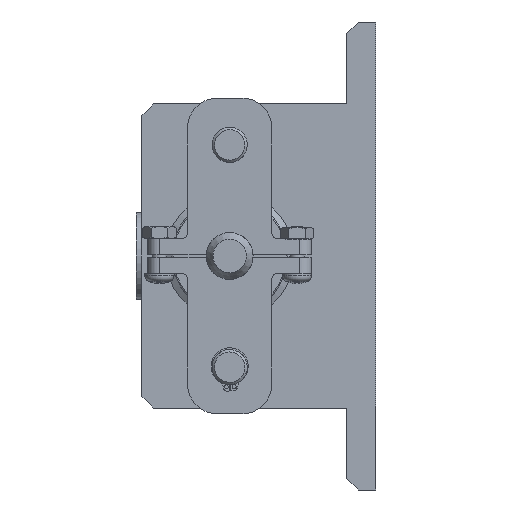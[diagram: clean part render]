
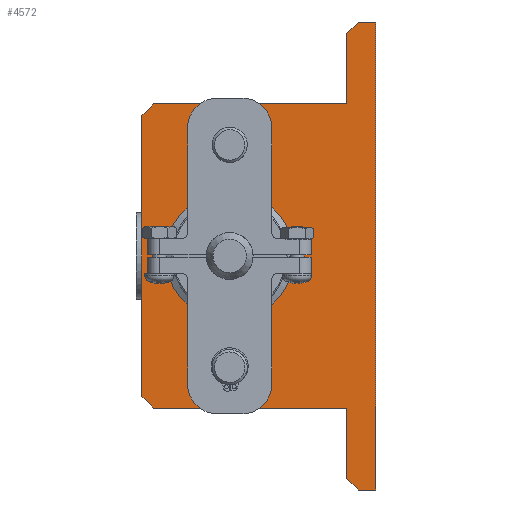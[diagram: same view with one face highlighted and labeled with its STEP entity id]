
A CAD part, left-side view. The second image highlights one B-rep face of the part: STEP entity #4572.
In plain terms, the highlighted planar face has unit normal (-1, 0, 0) as drawn and (0, -1, 0) by its records, which use the part's own axes.
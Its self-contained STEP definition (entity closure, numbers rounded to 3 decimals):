
#347=PLANE('',#5399);
#420=FACE_BOUND('',#987,.T.);
#421=FACE_BOUND('',#988,.T.);
#422=FACE_BOUND('',#989,.T.);
#681=FACE_OUTER_BOUND('',#986,.T.);
#986=EDGE_LOOP('',(#4025,#4026,#4027,#4028,#4029,#4030,#4031,#4032,#4033,
#4034,#4035,#4036));
#987=EDGE_LOOP('',(#4037));
#988=EDGE_LOOP('',(#4038));
#989=EDGE_LOOP('',(#4039));
#1279=LINE('',#8445,#1593);
#1281=LINE('',#8449,#1595);
#1284=LINE('',#8457,#1598);
#1285=LINE('',#8459,#1599);
#1286=LINE('',#8461,#1600);
#1287=LINE('',#8463,#1601);
#1288=LINE('',#8465,#1602);
#1289=LINE('',#8467,#1603);
#1290=LINE('',#8469,#1604);
#1291=LINE('',#8471,#1605);
#1292=LINE('',#8473,#1606);
#1293=LINE('',#8474,#1607);
#1593=VECTOR('',#6620,10.);
#1595=VECTOR('',#6624,10.);
#1598=VECTOR('',#6631,10.);
#1599=VECTOR('',#6632,10.);
#1600=VECTOR('',#6633,10.);
#1601=VECTOR('',#6634,10.);
#1602=VECTOR('',#6635,10.);
#1603=VECTOR('',#6636,10.);
#1604=VECTOR('',#6637,10.);
#1605=VECTOR('',#6638,10.);
#1606=VECTOR('',#6639,10.);
#1607=VECTOR('',#6640,10.);
#1889=CIRCLE('',#5393,4.);
#1890=CIRCLE('',#5395,4.);
#1892=CIRCLE('',#5400,11.);
#2262=VERTEX_POINT('',#8431);
#2263=VERTEX_POINT('',#8435);
#2266=VERTEX_POINT('',#8442);
#2267=VERTEX_POINT('',#8444);
#2268=VERTEX_POINT('',#8448);
#2271=VERTEX_POINT('',#8456);
#2272=VERTEX_POINT('',#8458);
#2273=VERTEX_POINT('',#8460);
#2274=VERTEX_POINT('',#8462);
#2275=VERTEX_POINT('',#8464);
#2276=VERTEX_POINT('',#8466);
#2277=VERTEX_POINT('',#8468);
#2278=VERTEX_POINT('',#8470);
#2279=VERTEX_POINT('',#8472);
#2280=VERTEX_POINT('',#8475);
#2859=EDGE_CURVE('',#2262,#2262,#1889,.T.);
#2861=EDGE_CURVE('',#2263,#2263,#1890,.T.);
#2865=EDGE_CURVE('',#2266,#2267,#1279,.T.);
#2867=EDGE_CURVE('',#2267,#2268,#1281,.T.);
#2871=EDGE_CURVE('',#2271,#2266,#1284,.T.);
#2872=EDGE_CURVE('',#2272,#2271,#1285,.T.);
#2873=EDGE_CURVE('',#2273,#2272,#1286,.T.);
#2874=EDGE_CURVE('',#2274,#2273,#1287,.T.);
#2875=EDGE_CURVE('',#2275,#2274,#1288,.T.);
#2876=EDGE_CURVE('',#2276,#2275,#1289,.T.);
#2877=EDGE_CURVE('',#2277,#2276,#1290,.T.);
#2878=EDGE_CURVE('',#2278,#2277,#1291,.T.);
#2879=EDGE_CURVE('',#2279,#2278,#1292,.T.);
#2880=EDGE_CURVE('',#2268,#2279,#1293,.T.);
#2881=EDGE_CURVE('',#2280,#2280,#1892,.T.);
#4025=ORIENTED_EDGE('',*,*,#2865,.F.);
#4026=ORIENTED_EDGE('',*,*,#2871,.F.);
#4027=ORIENTED_EDGE('',*,*,#2872,.F.);
#4028=ORIENTED_EDGE('',*,*,#2873,.F.);
#4029=ORIENTED_EDGE('',*,*,#2874,.F.);
#4030=ORIENTED_EDGE('',*,*,#2875,.F.);
#4031=ORIENTED_EDGE('',*,*,#2876,.F.);
#4032=ORIENTED_EDGE('',*,*,#2877,.F.);
#4033=ORIENTED_EDGE('',*,*,#2878,.F.);
#4034=ORIENTED_EDGE('',*,*,#2879,.F.);
#4035=ORIENTED_EDGE('',*,*,#2880,.F.);
#4036=ORIENTED_EDGE('',*,*,#2867,.F.);
#4037=ORIENTED_EDGE('',*,*,#2859,.T.);
#4038=ORIENTED_EDGE('',*,*,#2861,.T.);
#4039=ORIENTED_EDGE('',*,*,#2881,.F.);
#4572=ADVANCED_FACE('',(#681,#420,#421,#422),#347,.F.);
#5393=AXIS2_PLACEMENT_3D('',#8432,#6608,#6609);
#5395=AXIS2_PLACEMENT_3D('',#8436,#6613,#6614);
#5399=AXIS2_PLACEMENT_3D('',#8455,#6629,#6630);
#5400=AXIS2_PLACEMENT_3D('',#8476,#6641,#6642);
#6608=DIRECTION('center_axis',(0.,1.,0.));
#6609=DIRECTION('ref_axis',(1.,0.,0.));
#6613=DIRECTION('center_axis',(0.,1.,0.));
#6614=DIRECTION('ref_axis',(1.,0.,0.));
#6620=DIRECTION('',(-0.707,0.,0.707));
#6624=DIRECTION('',(0.,0.,1.));
#6629=DIRECTION('center_axis',(0.,1.,0.));
#6630=DIRECTION('ref_axis',(0.,0.,1.));
#6631=DIRECTION('',(-1.,0.,0.));
#6632=DIRECTION('',(0.,0.,-1.));
#6633=DIRECTION('',(1.,0.,0.));
#6634=DIRECTION('',(0.707,0.,0.707));
#6635=DIRECTION('',(0.,0.,1.));
#6636=DIRECTION('',(1.,0.,0.));
#6637=DIRECTION('',(0.707,0.,0.707));
#6638=DIRECTION('',(0.,0.,1.));
#6639=DIRECTION('',(-0.707,0.,0.707));
#6640=DIRECTION('',(-1.,0.,0.));
#6641=DIRECTION('center_axis',(0.,-1.,0.));
#6642=DIRECTION('ref_axis',(1.,0.,0.));
#8431=CARTESIAN_POINT('',(-29.,0.,-19.));
#8432=CARTESIAN_POINT('Origin',(-25.,0.,-19.));
#8435=CARTESIAN_POINT('',(-29.,0.,19.));
#8436=CARTESIAN_POINT('Origin',(-25.,0.,19.));
#8442=CARTESIAN_POINT('',(-3.,0.,-40.));
#8444=CARTESIAN_POINT('',(-5.,0.,-38.));
#8445=CARTESIAN_POINT('',(-13.375,0.,-29.625));
#8448=CARTESIAN_POINT('',(-5.,0.,-26.));
#8449=CARTESIAN_POINT('',(-5.,0.,-40.));
#8455=CARTESIAN_POINT('Origin',(-2.5,0.,0.));
#8456=CARTESIAN_POINT('',(0.,0.,-40.));
#8457=CARTESIAN_POINT('',(0.,0.,-40.));
#8458=CARTESIAN_POINT('',(0.,0.,40.));
#8459=CARTESIAN_POINT('',(0.,0.,40.));
#8460=CARTESIAN_POINT('',(-3.,0.,40.));
#8461=CARTESIAN_POINT('',(-5.,0.,40.));
#8462=CARTESIAN_POINT('',(-5.,0.,38.));
#8463=CARTESIAN_POINT('',(-13.375,0.,29.625));
#8464=CARTESIAN_POINT('',(-5.,0.,26.));
#8465=CARTESIAN_POINT('',(-5.,0.,-40.));
#8466=CARTESIAN_POINT('',(-38.,0.,26.));
#8467=CARTESIAN_POINT('',(-40.,0.,26.));
#8468=CARTESIAN_POINT('',(-40.,0.,24.));
#8469=CARTESIAN_POINT('',(-36.125,0.,27.875));
#8470=CARTESIAN_POINT('',(-40.,0.,-24.));
#8471=CARTESIAN_POINT('',(-40.,0.,-26.));
#8472=CARTESIAN_POINT('',(-38.,0.,-26.));
#8473=CARTESIAN_POINT('',(-36.125,0.,-27.875));
#8474=CARTESIAN_POINT('',(0.,0.,-26.));
#8475=CARTESIAN_POINT('',(-36.,0.,0.));
#8476=CARTESIAN_POINT('Origin',(-25.,0.,0.));
